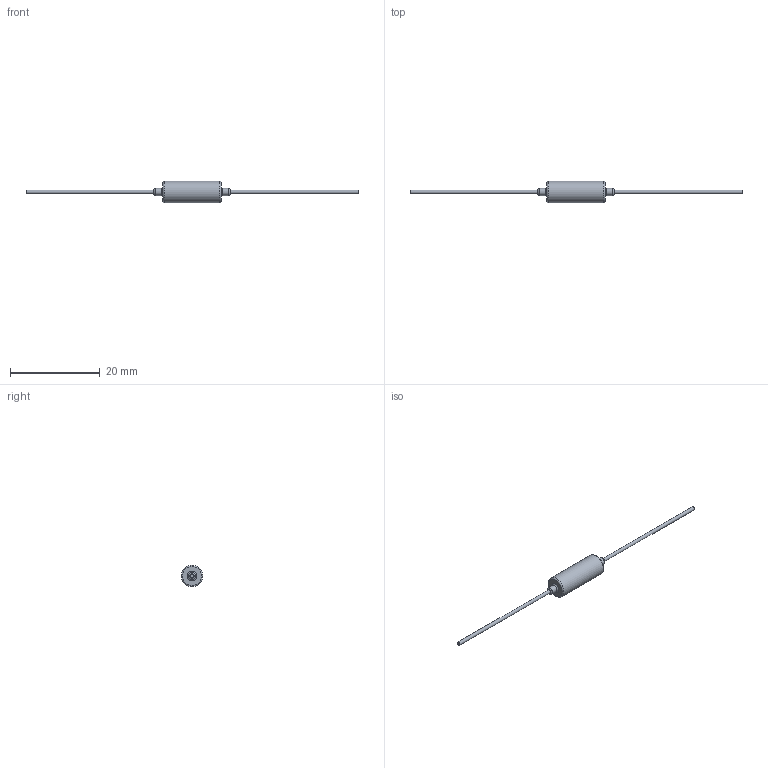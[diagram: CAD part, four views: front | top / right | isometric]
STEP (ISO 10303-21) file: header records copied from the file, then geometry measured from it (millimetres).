
FILE_DESCRIPTION((''),'2;1');
FILE_NAME('P:\Work\User\Special\CAD\Widerstand Serien\AC-Serie\axiale Ausführung\AC0300000XXXJAC00.stp','2015-10-26T07:35:44',('klepschi'),(''),'Autodesk Inventor 2013','Autodesk Inventor 2013','');
FILE_SCHEMA(('AUTOMOTIVE_DESIGN { 1 0 10303 214 1 1 1 1 }'));
Length unit declared in the file: millimetre
Products named in the file (1): AC0300000XXXJAC00
Bounding box: 74 x 4.8 x 4.8 mm (x, y, z)
Volume: 271.4 mm3; surface area: 389 mm2
Topology: 1 solids, 1 shells, 17 faces, 27 edges, 16 vertices
Faces by surface type: torus 6, plane 6, cylinder 5
Full cylindrical faces by diameter (mm): 0.8 x2, 1.6 x2, 4.8 x1
Entity records: 380 total; most frequent: DIRECTION 68, CARTESIAN_POINT 50, AXIS2_PLACEMENT_3D 34, ORIENTED_EDGE 32, EDGE_LOOP 32, FACE_OUTER_BOUND 17, ADVANCED_FACE 17, VERTEX_POINT 16
